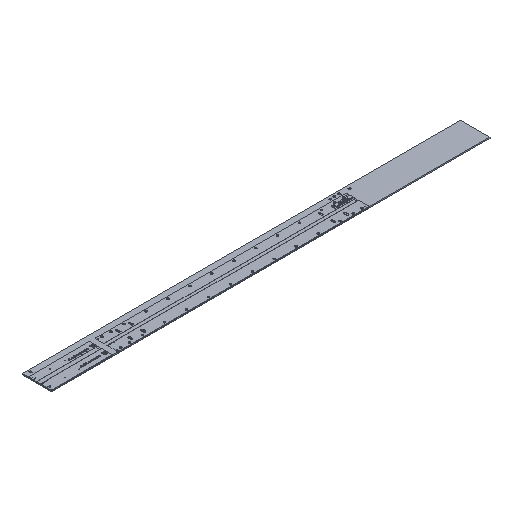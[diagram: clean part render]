
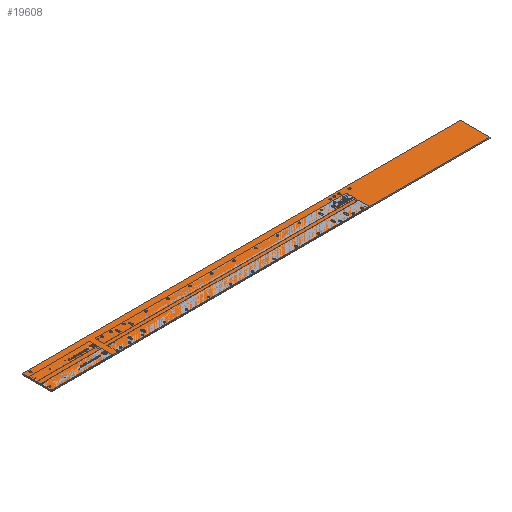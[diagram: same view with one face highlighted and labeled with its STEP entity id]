
A CAD part, isometric view. The second image highlights one B-rep face of the part: STEP entity #19608.
In plain terms, the highlighted planar face has unit normal (0, 0, 1).
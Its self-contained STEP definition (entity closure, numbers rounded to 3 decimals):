
#2490=FACE_OUTER_BOUND('',#3608,.T.);
#3608=EDGE_LOOP('',(#13186,#13187,#13188,#13189));
#5002=LINE('',#25897,#6581);
#5006=LINE('',#25905,#6585);
#5009=LINE('',#25911,#6588);
#5012=LINE('',#25916,#6591);
#6581=VECTOR('',#21968,10.);
#6585=VECTOR('',#21974,10.);
#6588=VECTOR('',#21979,10.);
#6591=VECTOR('',#21984,10.);
#8160=VERTEX_POINT('',#25895);
#8161=VERTEX_POINT('',#25896);
#8164=VERTEX_POINT('',#25904);
#8166=VERTEX_POINT('',#25910);
#10164=EDGE_CURVE('',#8160,#8161,#5002,.T.);
#10168=EDGE_CURVE('',#8161,#8164,#5006,.F.);
#10171=EDGE_CURVE('',#8164,#8166,#5009,.T.);
#10174=EDGE_CURVE('',#8166,#8160,#5012,.T.);
#13186=ORIENTED_EDGE('',*,*,#10174,.T.);
#13187=ORIENTED_EDGE('',*,*,#10164,.T.);
#13188=ORIENTED_EDGE('',*,*,#10168,.T.);
#13189=ORIENTED_EDGE('',*,*,#10171,.T.);
#19186=PLANE('',#20791);
#19608=ADVANCED_FACE('',(#2490),#19186,.T.);
#20791=AXIS2_PLACEMENT_3D('',#25918,#21986,#21987);
#21968=DIRECTION('',(1.,0.,0.));
#21974=DIRECTION('',(0.,-1.,0.));
#21979=DIRECTION('',(-1.,0.,0.));
#21984=DIRECTION('',(0.,-1.,0.));
#21986=DIRECTION('center_axis',(0.,0.,1.));
#21987=DIRECTION('ref_axis',(1.,0.,0.));
#25895=CARTESIAN_POINT('',(100.,600.,0.));
#25896=CARTESIAN_POINT('',(3100.,600.,0.));
#25897=CARTESIAN_POINT('',(100.,600.,0.));
#25904=CARTESIAN_POINT('',(3100.,800.,0.));
#25905=CARTESIAN_POINT('',(3100.,750.,0.));
#25910=CARTESIAN_POINT('',(100.,800.,0.));
#25911=CARTESIAN_POINT('',(2300.,800.,0.));
#25916=CARTESIAN_POINT('',(100.,800.,0.));
#25918=CARTESIAN_POINT('Origin',(1200.,700.,0.));
